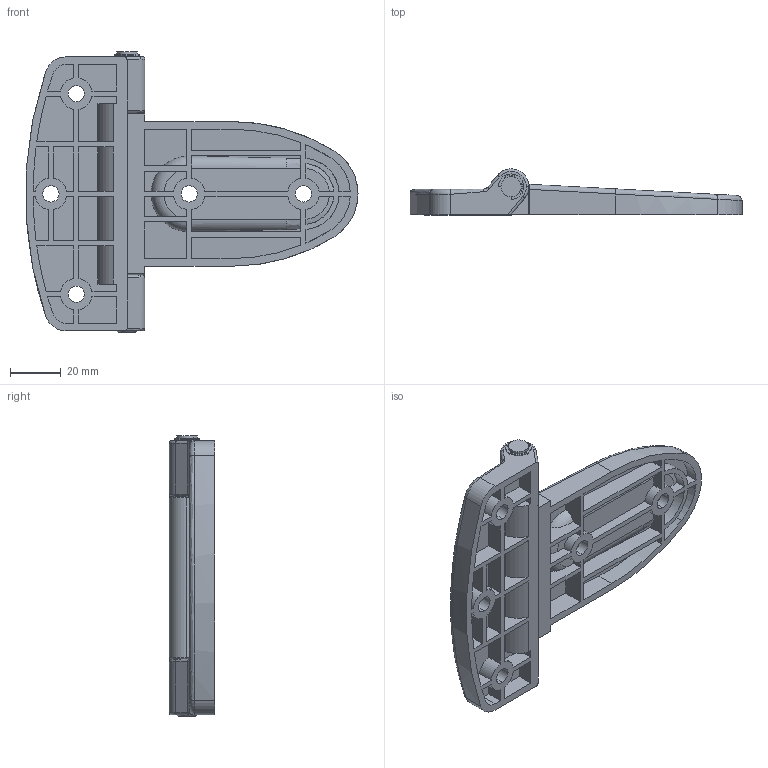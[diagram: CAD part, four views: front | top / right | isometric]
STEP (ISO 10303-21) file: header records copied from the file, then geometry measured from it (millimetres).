
FILE_DESCRIPTION (( 'STEP AP214' ), '1' );
FILE_NAME ('SK2-114.STEP', '2020-03-27T01:41:13', ( 'admin' ), ( 'Microsoft' ), 'SwSTEP 2.0', 'SolidWorks 2018', '' );
FILE_SCHEMA (( 'AUTOMOTIVE_DESIGN' ));
Length unit declared in the file: millimetre
Products named in the file (5): 2-114-F3; 2-114-F4; 2-114-F2; 2-114-F1; SK2-114
Assembly tree (4 placements, depth 2):
  SK2-114
    2-114-F1
    2-114-F2
    2-114-F4
    2-114-F3
Bounding box: 130.8 x 18 x 110.5 mm (x, y, z)
Volume: 60849.1 mm3; surface area: 40458.1 mm2
Topology: 4 solids, 4 shells, 336 faces, 824 edges, 521 vertices
Faces by surface type: plane 157, cylinder 107, bspline 36, torus 20, cone 12, sphere 4
Entity records: 11711 total; most frequent: CARTESIAN_POINT 3772, ORIENTED_EDGE 1640, DIRECTION 1571, EDGE_CURVE 820, AXIS2_PLACEMENT_3D 555, VERTEX_POINT 521, LINE 461, VECTOR 461
